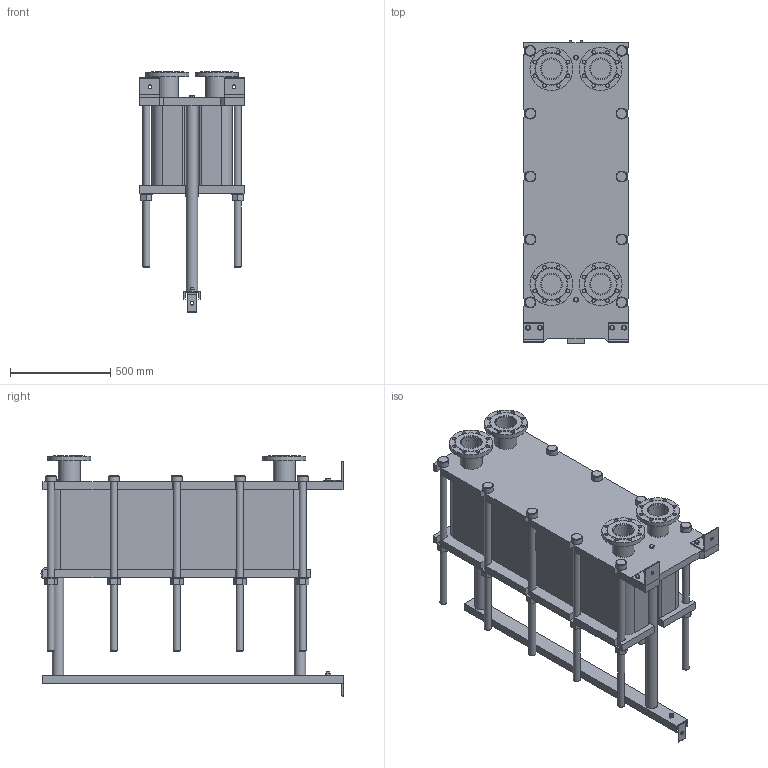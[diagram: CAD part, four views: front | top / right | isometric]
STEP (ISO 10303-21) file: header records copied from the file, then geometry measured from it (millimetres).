
FILE_DESCRIPTION(/* description */ (''),/* implementation_level */ '2;1');
FILE_NAME(/* name */ 'C:\Users\zhuro\Desktop\ENCO\TO\ЭН-04\ЭН-0,5-04-116-1.stp',/* time_stamp */ '2022-06-06T10:55:40+03:00',/* author */ ('zhuro'),/* organization */ (''),/* preprocessor_version */ 'ST-DEVELOPER v18.1',/* originating_system */ 'Autodesk Inventor 2022',/* authorisation */ '');
FILE_SCHEMA (('AUTOMOTIVE_DESIGN { 1 0 10303 214 3 1 1 }'));
Length unit declared in the file: millimetre
Products named in the file (1): ЭН-0,5-04-116-1
Bounding box: 520 x 1510 x 1203 mm (x, y, z)
Volume: 272069532.8 mm3; surface area: 8707103.5 mm2
Topology: 45 solids, 45 shells, 668 faces, 1611 edges, 1048 vertices
Faces by surface type: plane 457, cylinder 166, cone 39, torus 6
Full cylindrical faces by diameter (mm): 8 x4, 10 x2, 16 x8, 18 x35, 36 x25, 40 x2, 42 x1, 45 x4, 54 x10, 57 x2, 60 x10, 68 x2, 100 x4, 110 x8, 215 x4
Entity records: 23607 total; most frequent: CARTESIAN_POINT 7348, DIRECTION 3371, ORIENTED_EDGE 3142, EDGE_CURVE 1571, AXIS2_PLACEMENT_3D 1199, VERTEX_POINT 1044, LINE 973, VECTOR 973
